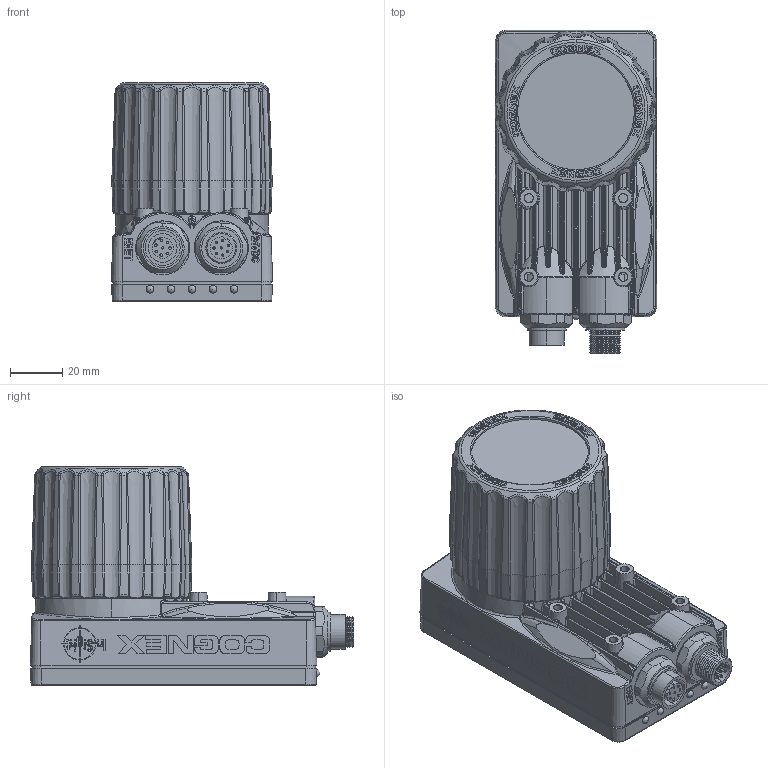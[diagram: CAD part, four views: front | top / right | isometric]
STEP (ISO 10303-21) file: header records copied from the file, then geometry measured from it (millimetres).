
FILE_DESCRIPTION (( 'STEP AP214' ), '1' );
FILE_NAME ('IS001-03-9-13-06 50mm.STEP', '2006-09-13T20:23:18', ( ' ' ), ( ' ' ), 'SwSTEP 2.0', 'SolidWorks 2006104', '' );
FILE_SCHEMA (( 'AUTOMOTIVE_DESIGN' ));
Length unit declared in the file: millimetre
Products named in the file (1): IS001-03-9-13-06 50mm
Bounding box: 61.44 x 123.25 x 83.41 mm (x, y, z)
Volume: 231876.6 mm3; surface area: 58868.3 mm2
Topology: 2 solids, 4 shells, 5936 faces, 16752 edges, 10932 vertices
Faces by surface type: plane 4409, bspline 687, cylinder 436, cone 225, torus 146, sphere 33
Entity records: 384422 total; most frequent: CARTESIAN_POINT 210022, ORIENTED_EDGE 33404, DIRECTION 27168, EDGE_CURVE 16702, VECTOR 13310, LINE 13310, VERTEX_POINT 10922, AXIS2_PLACEMENT_3D 6929
